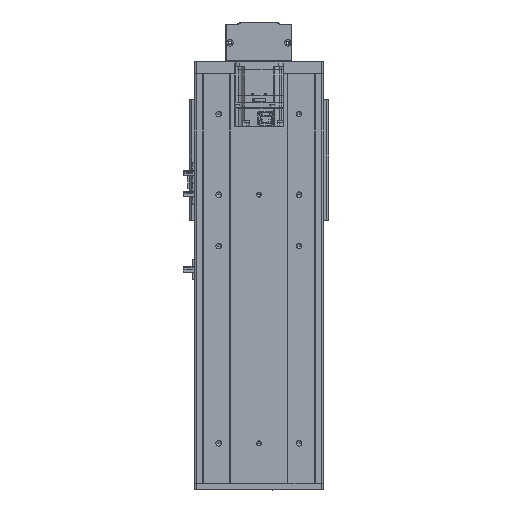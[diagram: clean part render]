
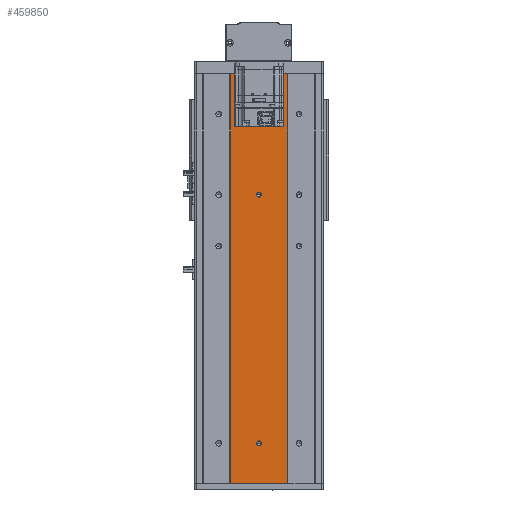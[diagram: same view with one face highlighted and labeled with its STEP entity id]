
A CAD part, front view. The second image highlights one B-rep face of the part: STEP entity #459850.
In plain terms, the highlighted planar face has unit normal (0, -1, 0) as drawn and (0, 1, 0) by its records, which use the part's own axes.
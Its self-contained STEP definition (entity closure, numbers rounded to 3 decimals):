
#413940=CARTESIAN_POINT('',(0.,51.,-129.));
#413950=VERTEX_POINT('',#413940);
#413980=CARTESIAN_POINT('',(0.,51.,-132.));
#413990=DIRECTION('',(-0.,-1.,-0.));
#414000=DIRECTION('',(0.,0.,1.));
#414010=AXIS2_PLACEMENT_3D('',#413980,#413990,#414000);
#414020=CIRCLE('',#414010,3.);
#414030=CARTESIAN_POINT('',(0.,51.,-135.
));
#414040=VERTEX_POINT('',#414030);
#414050=EDGE_CURVE('',#413950,#414040,#414020,.T.);
#414580=CARTESIAN_POINT('',(0.,51.,-35.)
);
#414590=VERTEX_POINT('',#414580);
#414790=CARTESIAN_POINT('',(0.,51.,-29.));
#414800=VERTEX_POINT('',#414790);
#414830=CARTESIAN_POINT('',(0.,51.,-32.));
#414840=DIRECTION('',(-0.,-1.,-0.));
#414850=DIRECTION('',(0.,0.,1.));
#414860=AXIS2_PLACEMENT_3D('',#414830,#414840,#414850);
#414870=CIRCLE('',#414860,3.);
#414880=EDGE_CURVE('',#414800,#414590,#414870,.T.);
#415310=CARTESIAN_POINT('',(0.,51.,280.));
#415320=VERTEX_POINT('',#415310);
#415520=CARTESIAN_POINT('',(0.,51.,274.)
);
#415530=VERTEX_POINT('',#415520);
#415560=CARTESIAN_POINT('',(0.,51.,277.));
#415570=DIRECTION('',(-0.,-1.,-0.));
#415580=DIRECTION('',(0.,0.,1.));
#415590=AXIS2_PLACEMENT_3D('',#415560,#415570,#415580);
#415600=CIRCLE('',#415590,3.);
#415610=EDGE_CURVE('',#415530,#415320,#415600,.T.);
#459180=CARTESIAN_POINT('',(35.,51.,327.));
#459190=VERTEX_POINT('',#459180);
#459220=CARTESIAN_POINT('',(35.,51.,-182.));
#459230=DIRECTION('',(0.,0.,1.));
#459240=VECTOR('',#459230,1000.);
#459250=LINE('',#459220,#459240);
#459260=CARTESIAN_POINT('',(35.,51.,-182.));
#459270=VERTEX_POINT('',#459260);
#459280=EDGE_CURVE('',#459270,#459190,#459250,.T.);
#459400=CARTESIAN_POINT('',(0.,51.,-182.)
);
#459410=DIRECTION('',(0.,1.,0.));
#459420=DIRECTION('',(0.,0.,-1.));
#459430=AXIS2_PLACEMENT_3D('',#459400,#459410,#459420);
#459440=PLANE('',#459430);
#459450=EDGE_CURVE('',#415320,#415530,#415600,.T.);
#459460=ORIENTED_EDGE('',*,*,#459450,.T.);
#459470=ORIENTED_EDGE('',*,*,#415610,.T.);
#459480=EDGE_LOOP('',(#459470,#459460));
#459490=FACE_BOUND('',#459480,.T.);
#459500=ORIENTED_EDGE('',*,*,#414050,.T.);
#459510=EDGE_CURVE('',#414040,#413950,#414020,.T.);
#459520=ORIENTED_EDGE('',*,*,#459510,.T.);
#459530=EDGE_LOOP('',(#459520,#459500));
#459540=FACE_BOUND('',#459530,.T.);
#459550=EDGE_CURVE('',#414590,#414800,#414870,.T.);
#459560=ORIENTED_EDGE('',*,*,#459550,.T.);
#459570=ORIENTED_EDGE('',*,*,#414880,.T.);
#459580=EDGE_LOOP('',(#459570,#459560));
#459590=FACE_BOUND('',#459580,.T.);
#459600=CARTESIAN_POINT('',(0.,51.,327.))
;
#459610=DIRECTION('',(-1.,-0.,-0.));
#459620=VECTOR('',#459610,1000.);
#459630=LINE('',#459600,#459620);
#459640=CARTESIAN_POINT('',(-35.,51.,327.));
#459650=VERTEX_POINT('',#459640);
#459660=EDGE_CURVE('',#459190,#459650,#459630,.T.);
#459670=ORIENTED_EDGE('',*,*,#459660,.F.);
#459680=CARTESIAN_POINT('',(-35.,51.,-182.));
#459690=DIRECTION('',(0.,0.,1.));
#459700=VECTOR('',#459690,1000.);
#459710=LINE('',#459680,#459700);
#459720=CARTESIAN_POINT('',(-35.,51.,-182.));
#459730=VERTEX_POINT('',#459720);
#459740=EDGE_CURVE('',#459730,#459650,#459710,.T.);
#459750=ORIENTED_EDGE('',*,*,#459740,.T.);
#459760=CARTESIAN_POINT('',(35.,51.,-182.));
#459770=DIRECTION('',(-1.,-0.,-0.));
#459780=VECTOR('',#459770,1000.);
#459790=LINE('',#459760,#459780);
#459800=EDGE_CURVE('',#459270,#459730,#459790,.T.);
#459810=ORIENTED_EDGE('',*,*,#459800,.T.);
#459820=ORIENTED_EDGE('',*,*,#459280,.F.);
#459830=EDGE_LOOP('',(#459820,#459810,#459750,#459670));
#459840=FACE_OUTER_BOUND('',#459830,.T.);
#459850=ADVANCED_FACE('',(#459490,#459540,#459590,#459840),#459440,.T.);
